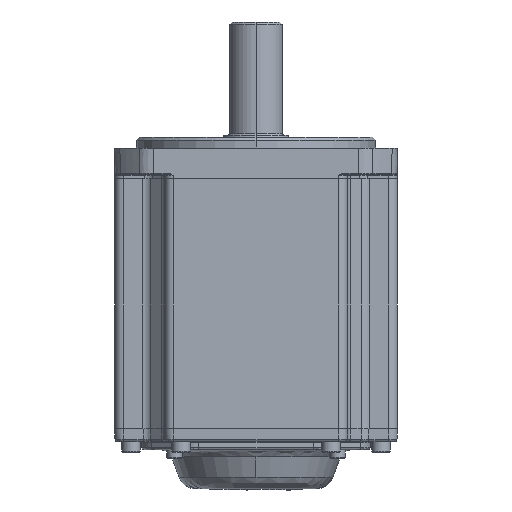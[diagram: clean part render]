
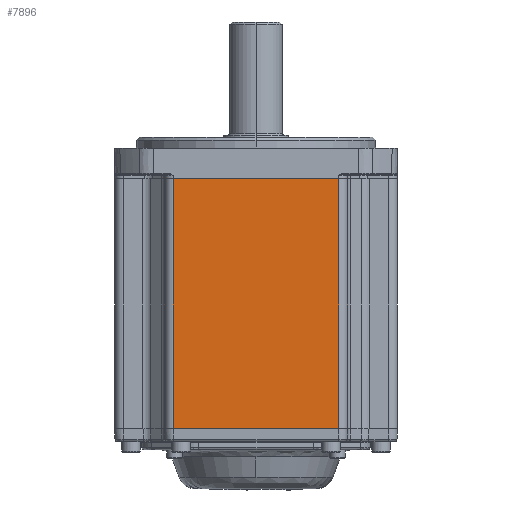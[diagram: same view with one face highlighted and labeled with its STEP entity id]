
A CAD part, front view. The second image highlights one B-rep face of the part: STEP entity #7896.
In plain terms, the highlighted planar face has unit normal (0, -1, 0).
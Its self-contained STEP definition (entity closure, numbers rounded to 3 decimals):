
#978 = VECTOR ( 'NONE', #35893, 1000. ) ;
#2784 = EDGE_CURVE ( 'NONE', #28253, #35329, #6989, .T. ) ;
#2955 = DIRECTION ( 'NONE',  ( 0., 0., -1. ) ) ;
#6989 = LINE ( 'NONE', #30655, #978 ) ;
#7008 = DIRECTION ( 'NONE',  ( 0., 1., 0. ) ) ;
#7650 = ORIENTED_EDGE ( 'NONE', *, *, #36263, .T. ) ;
#7896 = ADVANCED_FACE ( 'NONE', ( #18028 ), #40711, .F. ) ;
#9378 = ORIENTED_EDGE ( 'NONE', *, *, #12707, .T. ) ;
#10178 = LINE ( 'NONE', #52086, #47180 ) ;
#11105 = EDGE_LOOP ( 'NONE', ( #57358, #9378, #7650, #52169 ) ) ;
#12707 = EDGE_CURVE ( 'NONE', #32675, #14198, #40281, .T. ) ;
#12963 = EDGE_CURVE ( 'NONE', #32675, #35329, #10178, .T. ) ;
#13024 = LINE ( 'NONE', #21732, #46240 ) ;
#13756 = DIRECTION ( 'NONE',  ( 1., 0., 0. ) ) ;
#14198 = VERTEX_POINT ( 'NONE', #37608 ) ;
#18028 = FACE_OUTER_BOUND ( 'NONE', #11105, .T. ) ;
#21731 = DIRECTION ( 'NONE',  ( 0., 0., 1. ) ) ;
#21732 = CARTESIAN_POINT ( 'NONE',  ( -42., -65., -67.2 ) ) ;
#25194 = VECTOR ( 'NONE', #2955, 1000. ) ;
#28253 = VERTEX_POINT ( 'NONE', #32744 ) ;
#30655 = CARTESIAN_POINT ( 'NONE',  ( 38., -65., 932.8 ) ) ;
#32675 = VERTEX_POINT ( 'NONE', #58967 ) ;
#32744 = CARTESIAN_POINT ( 'NONE',  ( 38., -65., -67.2 ) ) ;
#34700 = CARTESIAN_POINT ( 'NONE',  ( 38., -65., 47.8 ) ) ;
#35329 = VERTEX_POINT ( 'NONE', #34700 ) ;
#35893 = DIRECTION ( 'NONE',  ( 0., 0., 1. ) ) ;
#36070 = CARTESIAN_POINT ( 'NONE',  ( -42., -65., 932.8 ) ) ;
#36263 = EDGE_CURVE ( 'NONE', #14198, #28253, #13024, .T. ) ;
#37608 = CARTESIAN_POINT ( 'NONE',  ( -38., -65., -67.2 ) ) ;
#40281 = LINE ( 'NONE', #55567, #25194 ) ;
#40528 = AXIS2_PLACEMENT_3D ( 'NONE', #36070, #7008, #21731 ) ;
#40711 = PLANE ( 'NONE',  #40528 ) ;
#46240 = VECTOR ( 'NONE', #61020, 1000. ) ;
#47180 = VECTOR ( 'NONE', #13756, 1000. ) ;
#52086 = CARTESIAN_POINT ( 'NONE',  ( -42., -65., 47.8 ) ) ;
#52169 = ORIENTED_EDGE ( 'NONE', *, *, #2784, .T. ) ;
#55567 = CARTESIAN_POINT ( 'NONE',  ( -38., -65., 932.8 ) ) ;
#57358 = ORIENTED_EDGE ( 'NONE', *, *, #12963, .F. ) ;
#58967 = CARTESIAN_POINT ( 'NONE',  ( -38., -65., 47.8 ) ) ;
#61020 = DIRECTION ( 'NONE',  ( 1., 0., 0. ) ) ;
